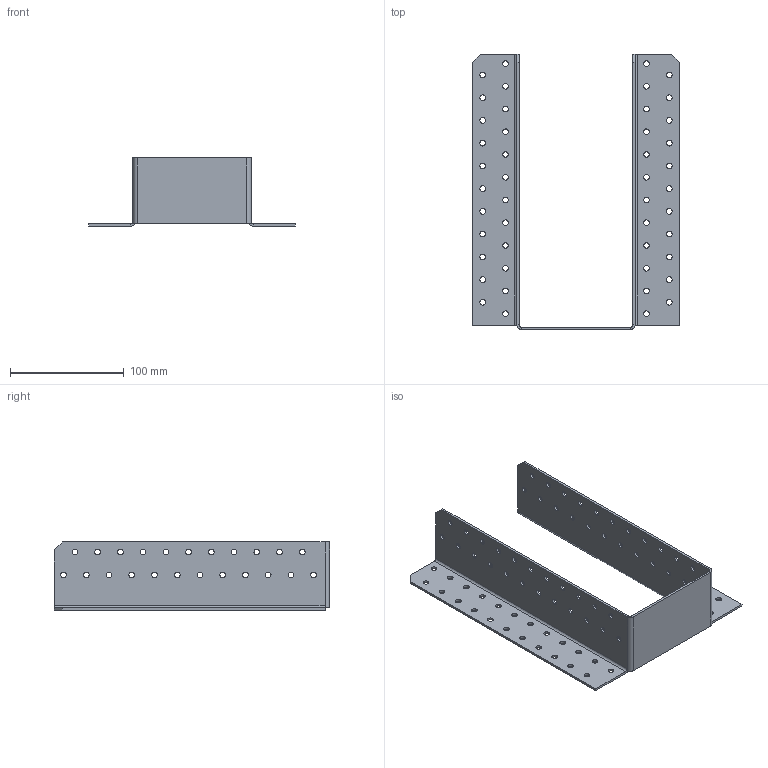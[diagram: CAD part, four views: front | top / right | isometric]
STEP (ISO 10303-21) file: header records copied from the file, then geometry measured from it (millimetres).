
FILE_DESCRIPTION (( 'STEP AP203' ), '1' );
FILE_NAME ('405012.STEP', '2021-04-17T14:43:41', ( '' ), ( '' ), 'SwSTEP 2.0', 'SolidWorks 2013', '' );
FILE_SCHEMA (( 'CONFIG_CONTROL_DESIGN' ));
Length unit declared in the file: millimetre
Products named in the file (1): 405012
Bounding box: 182 x 242 x 60 mm (x, y, z)
Volume: 101442.6 mm3; surface area: 107176.9 mm2
Topology: 1 solids, 1 shells, 228 faces, 648 edges, 422 vertices
Faces by surface type: cylinder 192, plane 36
Entity records: 8043 total; most frequent: DIRECTION 1492, CARTESIAN_POINT 1299, ORIENTED_EDGE 1296, EDGE_CURVE 648, AXIS2_PLACEMENT_3D 615, VERTEX_POINT 422, EDGE_LOOP 412, CIRCLE 386
